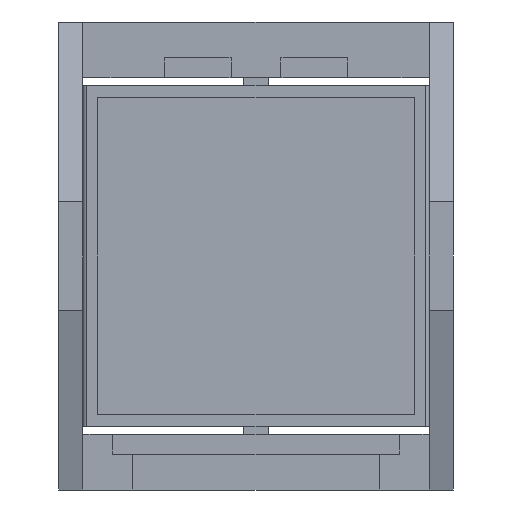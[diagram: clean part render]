
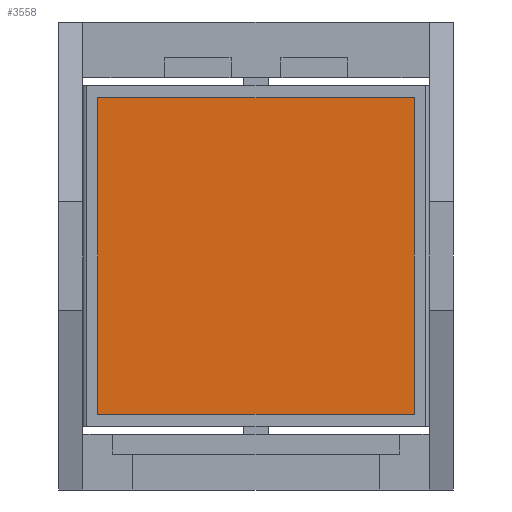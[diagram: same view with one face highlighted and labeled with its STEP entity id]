
A CAD part, front view. The second image highlights one B-rep face of the part: STEP entity #3558.
In plain terms, the highlighted planar face has unit normal (0, -1, 0).
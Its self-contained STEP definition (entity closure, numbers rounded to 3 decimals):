
#93 = ORIENTED_EDGE ( 'NONE', *, *, #1442, .F. ) ;
#650 = CARTESIAN_POINT ( 'NONE',  ( 12.524, -1.976, -9.821 ) ) ;
#709 = DIRECTION ( 'NONE',  ( -1., 0., 0. ) ) ;
#762 = CARTESIAN_POINT ( 'NONE',  ( -6.476, -1.976, -9.821 ) ) ;
#1325 = VERTEX_POINT ( 'NONE', #5469 ) ;
#1342 = VERTEX_POINT ( 'NONE', #1666 ) ;
#1441 = ORIENTED_EDGE ( 'NONE', *, *, #5079, .F. ) ;
#1442 = EDGE_CURVE ( 'NONE', #1342, #1325, #4865, .T. ) ;
#1539 = EDGE_LOOP ( 'NONE', ( #93, #3009, #1441, #5126 ) ) ;
#1580 = DIRECTION ( 'NONE',  ( 0., 1., 0. ) ) ;
#1666 = CARTESIAN_POINT ( 'NONE',  ( -6.476, -1.976, -9.821 ) ) ;
#1678 = PLANE ( 'NONE',  #5039 ) ;
#1894 = DIRECTION ( 'NONE',  ( 1., 0., 0. ) ) ;
#2528 = CARTESIAN_POINT ( 'NONE',  ( -6.476, -1.976, 9.179 ) ) ;
#2583 = VECTOR ( 'NONE', #3663, 1000. ) ;
#2775 = VERTEX_POINT ( 'NONE', #650 ) ;
#3009 = ORIENTED_EDGE ( 'NONE', *, *, #3579, .F. ) ;
#3127 = CARTESIAN_POINT ( 'NONE',  ( -6.476, -1.976, -9.821 ) ) ;
#3262 = CARTESIAN_POINT ( 'NONE',  ( 12.524, -1.976, 9.179 ) ) ;
#3307 = CARTESIAN_POINT ( 'NONE',  ( 12.524, -1.976, -9.821 ) ) ;
#3343 = FACE_OUTER_BOUND ( 'NONE', #1539, .T. ) ;
#3419 = EDGE_CURVE ( 'NONE', #1325, #3457, #4539, .T. ) ;
#3457 = VERTEX_POINT ( 'NONE', #3262 ) ;
#3558 = ADVANCED_FACE ( 'NONE', ( #3343 ), #1678, .F. ) ;
#3579 = EDGE_CURVE ( 'NONE', #2775, #1342, #3725, .T. ) ;
#3663 = DIRECTION ( 'NONE',  ( 0., 0., 1. ) ) ;
#3684 = VECTOR ( 'NONE', #709, 1000. ) ;
#3716 = LINE ( 'NONE', #3307, #5138 ) ;
#3725 = LINE ( 'NONE', #762, #3684 ) ;
#4539 = LINE ( 'NONE', #5398, #4839 ) ;
#4839 = VECTOR ( 'NONE', #1894, 1000. ) ;
#4865 = LINE ( 'NONE', #3127, #2583 ) ;
#5022 = DIRECTION ( 'NONE',  ( 0., 0., -1. ) ) ;
#5032 = DIRECTION ( 'NONE',  ( 0., 0., 1. ) ) ;
#5039 = AXIS2_PLACEMENT_3D ( 'NONE', #2528, #1580, #5032 ) ;
#5079 = EDGE_CURVE ( 'NONE', #3457, #2775, #3716, .T. ) ;
#5126 = ORIENTED_EDGE ( 'NONE', *, *, #3419, .F. ) ;
#5138 = VECTOR ( 'NONE', #5022, 1000. ) ;
#5398 = CARTESIAN_POINT ( 'NONE',  ( -6.476, -1.976, 9.179 ) ) ;
#5469 = CARTESIAN_POINT ( 'NONE',  ( -6.476, -1.976, 9.179 ) ) ;
